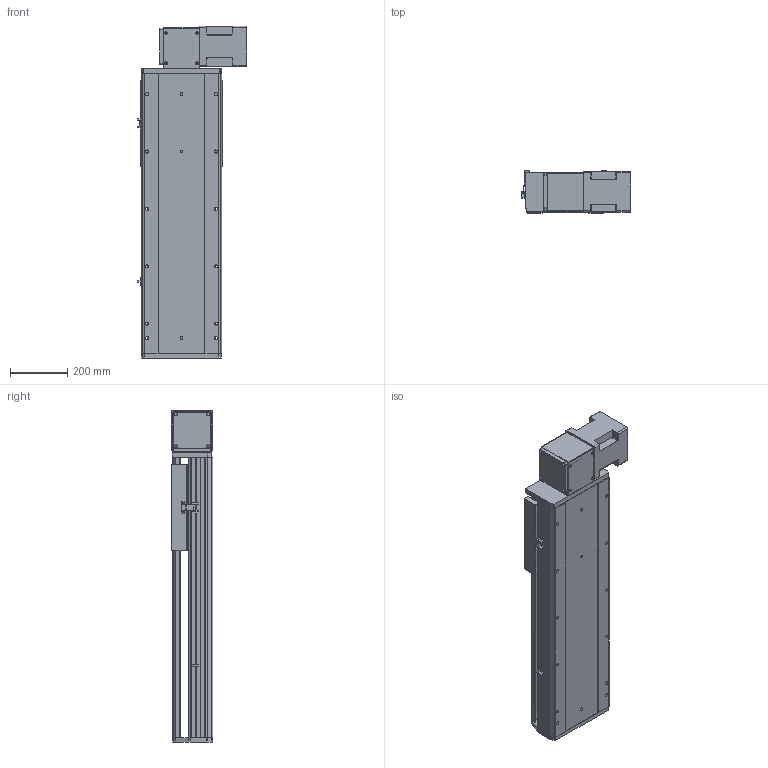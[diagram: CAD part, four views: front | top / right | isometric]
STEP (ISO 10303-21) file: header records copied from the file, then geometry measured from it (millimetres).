
FILE_DESCRIPTION (( 'STEP AP214' ), '1' );
FILE_NAME ('RTB28S-XX-550-BL-M100-XX-C4.STEP', '2025-12-22T02:17:18', ( '' ), ( '' ), 'SwSTEP 2.0', 'SolidWorks 2018', '' );
FILE_SCHEMA (( 'AUTOMOTIVE_DESIGN' ));
Length unit declared in the file: millimetre
Products named in the file (4): RTB28S-GY-004^RTB28S-XX-XX-BL-M100-XX-C4; RTB28S-XX-550-BL-M100-XX-C4; RTB28S-GY-008^RTB28S-XX-XX-BL-M100-XX-C4; RTB28S-GY-011^RTB28S-XX-XX-BL-M100-XX-C4
Assembly tree (3 placements, depth 2):
  RTB28S-XX-550-BL-M100-XX-C4
    RTB28S-GY-011^RTB28S-XX-XX-BL-M100-XX-C4
    RTB28S-GY-004^RTB28S-XX-XX-BL-M100-XX-C4
    RTB28S-GY-008^RTB28S-XX-XX-BL-M100-XX-C4
Bounding box: 380.7 x 145 x 1157 mm (x, y, z)
Volume: 22520529.5 mm3; surface area: 2223501.2 mm2
Topology: 3 solids, 4 shells, 768 faces, 2028 edges, 1288 vertices
Faces by surface type: cylinder 343, plane 341, cone 80, torus 4
Entity records: 28541 total; most frequent: CARTESIAN_POINT 4702, DIRECTION 4290, ORIENTED_EDGE 3992, EDGE_CURVE 1996, AXIS2_PLACEMENT_3D 1540, VERTEX_POINT 1288, VECTOR 1210, LINE 1210
